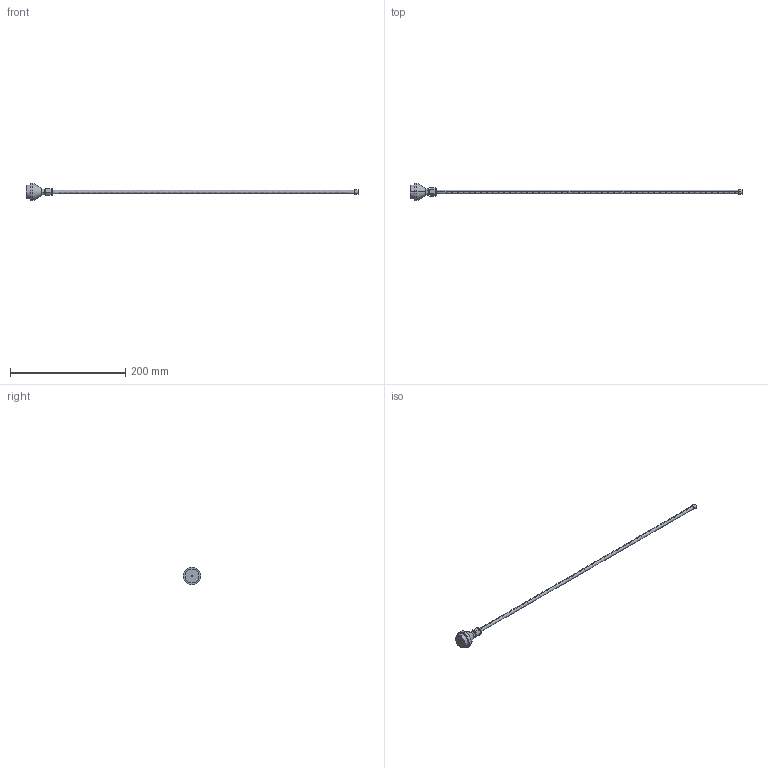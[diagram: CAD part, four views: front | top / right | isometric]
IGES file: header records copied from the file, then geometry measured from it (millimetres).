
Start section: SolidWorks IGES FILE using analytic representation for surfaces
Global section: file name: \\intra-srv04\開発データ\CAD_Data\CAD委員会\3D電子ｶﾀﾛｸﾞ\製品カタログ（新）\0_IGES\ER-AB50.IGS,41HSolidWorks 2004; native system: by SolidWorks Corporation; preprocessor: Version 5.3; author: mf1158; date: 050905.093537; units: millimetre
Bounding box: 575 x 30 x 30 mm (x, y, z)
Volume: 25104 mm3; surface area: 19396.7 mm2
Topology: 1 solids, 1 shells, 145 faces, 500 edges, 262 vertices
Faces by surface type: revolution 118, plane 27
